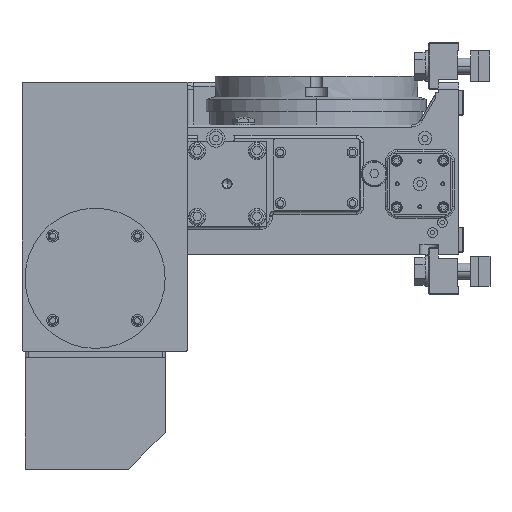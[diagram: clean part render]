
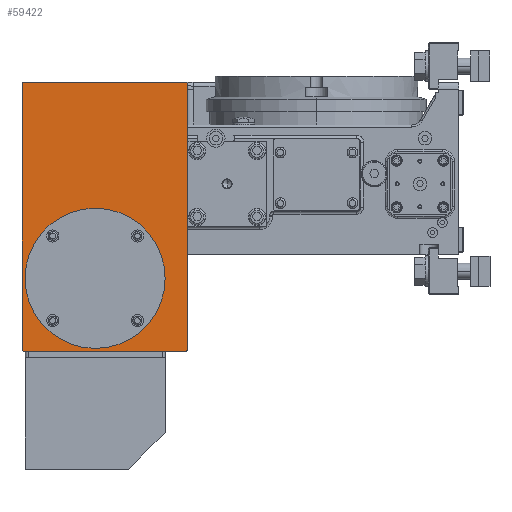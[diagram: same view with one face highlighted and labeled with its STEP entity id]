
A CAD part, left-side view. The second image highlights one B-rep face of the part: STEP entity #59422.
In plain terms, the highlighted planar face has unit normal (-1, 0, 0).
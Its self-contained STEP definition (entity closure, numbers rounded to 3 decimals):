
#2015 = ORIENTED_EDGE ( 'NONE', *, *, #53510, .F. ) ;
#2461 = EDGE_LOOP ( 'NONE', ( #118993, #2015 ) ) ;
#3494 = LINE ( 'NONE', #117168, #74721 ) ;
#4367 = CARTESIAN_POINT ( 'NONE',  ( -203., 0., -263. ) ) ;
#7502 = CARTESIAN_POINT ( 'NONE',  ( -203., 163., -2. ) ) ;
#8255 = EDGE_CURVE ( 'NONE', #91491, #105843, #31579, .T. ) ;
#9047 = CIRCLE ( 'NONE', #117580, 54. ) ;
#12661 = CARTESIAN_POINT ( 'NONE',  ( -203., 0., 0. ) ) ;
#13082 = PLANE ( 'NONE',  #13578 ) ;
#13213 = CIRCLE ( 'NONE', #87438, 2. ) ;
#13314 = EDGE_CURVE ( 'NONE', #26128, #98991, #96383, .T. ) ;
#13578 = AXIS2_PLACEMENT_3D ( 'NONE', #12661, #80820, #22832 ) ;
#14763 = CARTESIAN_POINT ( 'NONE',  ( -203., 163., 0. ) ) ;
#18401 = CARTESIAN_POINT ( 'NONE',  ( -203., 2., 0. ) ) ;
#18442 = VERTEX_POINT ( 'NONE', #80156 ) ;
#18911 = ORIENTED_EDGE ( 'NONE', *, *, #51847, .T. ) ;
#19518 = EDGE_CURVE ( 'NONE', #18442, #105843, #54885, .T. ) ;
#20219 = DIRECTION ( 'NONE',  ( -1., 0., 0. ) ) ;
#22832 = DIRECTION ( 'NONE',  ( 0., 0., 1. ) ) ;
#24672 = EDGE_CURVE ( 'NONE', #26128, #110762, #44597, .T. ) ;
#25767 = CARTESIAN_POINT ( 'NONE',  ( -203., 91., -193. ) ) ;
#26128 = VERTEX_POINT ( 'NONE', #64607 ) ;
#27188 = CIRCLE ( 'NONE', #28796, 54. ) ;
#28796 = AXIS2_PLACEMENT_3D ( 'NONE', #25767, #93511, #35494 ) ;
#31556 = CARTESIAN_POINT ( 'NONE',  ( -203., 2., -263. ) ) ;
#31579 = CIRCLE ( 'NONE', #78930, 2. ) ;
#35320 = VERTEX_POINT ( 'NONE', #43850 ) ;
#35494 = DIRECTION ( 'NONE',  ( 0., 0., 1. ) ) ;
#36976 = DIRECTION ( 'NONE',  ( -1., 0., 0. ) ) ;
#37817 = CARTESIAN_POINT ( 'NONE',  ( -203., 161., -263. ) ) ;
#40014 = ORIENTED_EDGE ( 'NONE', *, *, #13314, .F. ) ;
#41330 = DIRECTION ( 'NONE',  ( 0., 0., 1. ) ) ;
#42446 = ORIENTED_EDGE ( 'NONE', *, *, #8255, .T. ) ;
#43208 = ORIENTED_EDGE ( 'NONE', *, *, #112245, .F. ) ;
#43785 = VERTEX_POINT ( 'NONE', #91096 ) ;
#43850 = CARTESIAN_POINT ( 'NONE',  ( -203., 0., -2. ) ) ;
#43967 = DIRECTION ( 'NONE',  ( 0., 0., 1. ) ) ;
#44597 = CIRCLE ( 'NONE', #82754, 2. ) ;
#46694 = DIRECTION ( 'NONE',  ( -1., 0., 0. ) ) ;
#47080 = EDGE_CURVE ( 'NONE', #35320, #72563, #13213, .T. ) ;
#47232 = CARTESIAN_POINT ( 'NONE',  ( -203., 0., 0. ) ) ;
#47567 = DIRECTION ( 'NONE',  ( 0., 0., 1. ) ) ;
#48394 = EDGE_CURVE ( 'NONE', #35320, #110762, #3494, .T. ) ;
#51205 = EDGE_LOOP ( 'NONE', ( #40014, #104898, #115168, #108127, #43208, #42446, #122848, #18911 ) ) ;
#51847 = EDGE_CURVE ( 'NONE', #18442, #98991, #60503, .T. ) ;
#53510 = EDGE_CURVE ( 'NONE', #116936, #43785, #9047, .T. ) ;
#54885 = LINE ( 'NONE', #14763, #77603 ) ;
#59422 = ADVANCED_FACE ( 'NONE', ( #67290, #70394 ), #13082, .T. ) ;
#60503 = CIRCLE ( 'NONE', #72527, 2. ) ;
#60615 = CARTESIAN_POINT ( 'NONE',  ( -203., 91., -247. ) ) ;
#64607 = CARTESIAN_POINT ( 'NONE',  ( -203., 2., -265. ) ) ;
#67290 = FACE_BOUND ( 'NONE', #2461, .T. ) ;
#70394 = FACE_OUTER_BOUND ( 'NONE', #51205, .T. ) ;
#72527 = AXIS2_PLACEMENT_3D ( 'NONE', #37817, #105671, #47567 ) ;
#72563 = VERTEX_POINT ( 'NONE', #18401 ) ;
#74721 = VECTOR ( 'NONE', #98112, 1000. ) ;
#75254 = EDGE_CURVE ( 'NONE', #43785, #116936, #27188, .T. ) ;
#77603 = VECTOR ( 'NONE', #43967, 1000. ) ;
#77867 = VECTOR ( 'NONE', #115475, 1000. ) ;
#78930 = AXIS2_PLACEMENT_3D ( 'NONE', #94587, #20219, #94153 ) ;
#80156 = CARTESIAN_POINT ( 'NONE',  ( -203., 163., -263. ) ) ;
#80820 = DIRECTION ( 'NONE',  ( -1., 0., 0. ) ) ;
#82754 = AXIS2_PLACEMENT_3D ( 'NONE', #31556, #99438, #41330 ) ;
#87438 = AXIS2_PLACEMENT_3D ( 'NONE', #104840, #46694, #114520 ) ;
#91096 = CARTESIAN_POINT ( 'NONE',  ( -203., 91., -139. ) ) ;
#91491 = VERTEX_POINT ( 'NONE', #114299 ) ;
#93511 = DIRECTION ( 'NONE',  ( -1., 0., 0. ) ) ;
#94153 = DIRECTION ( 'NONE',  ( 0., 0., 1. ) ) ;
#94587 = CARTESIAN_POINT ( 'NONE',  ( -203., 161., -2. ) ) ;
#95044 = CARTESIAN_POINT ( 'NONE',  ( -203., 91., -193. ) ) ;
#96383 = LINE ( 'NONE', #117312, #116058 ) ;
#98112 = DIRECTION ( 'NONE',  ( 0., 0., -1. ) ) ;
#98250 = DIRECTION ( 'NONE',  ( 0., 1., 0. ) ) ;
#98991 = VERTEX_POINT ( 'NONE', #101462 ) ;
#99438 = DIRECTION ( 'NONE',  ( -1., 0., 0. ) ) ;
#100659 = LINE ( 'NONE', #47232, #77867 ) ;
#101462 = CARTESIAN_POINT ( 'NONE',  ( -203., 161., -265. ) ) ;
#104835 = DIRECTION ( 'NONE',  ( 0., 0., 1. ) ) ;
#104840 = CARTESIAN_POINT ( 'NONE',  ( -203., 2., -2. ) ) ;
#104898 = ORIENTED_EDGE ( 'NONE', *, *, #24672, .T. ) ;
#105671 = DIRECTION ( 'NONE',  ( -1., 0., 0. ) ) ;
#105843 = VERTEX_POINT ( 'NONE', #7502 ) ;
#108127 = ORIENTED_EDGE ( 'NONE', *, *, #47080, .T. ) ;
#110762 = VERTEX_POINT ( 'NONE', #4367 ) ;
#112245 = EDGE_CURVE ( 'NONE', #91491, #72563, #100659, .T. ) ;
#114299 = CARTESIAN_POINT ( 'NONE',  ( -203., 161., 0. ) ) ;
#114520 = DIRECTION ( 'NONE',  ( 0., 0., 1. ) ) ;
#115168 = ORIENTED_EDGE ( 'NONE', *, *, #48394, .F. ) ;
#115475 = DIRECTION ( 'NONE',  ( 0., -1., 0. ) ) ;
#116058 = VECTOR ( 'NONE', #98250, 1000. ) ;
#116936 = VERTEX_POINT ( 'NONE', #60615 ) ;
#117168 = CARTESIAN_POINT ( 'NONE',  ( -203., 0., 0. ) ) ;
#117312 = CARTESIAN_POINT ( 'NONE',  ( -203., 0., -265. ) ) ;
#117580 = AXIS2_PLACEMENT_3D ( 'NONE', #95044, #36976, #104835 ) ;
#118993 = ORIENTED_EDGE ( 'NONE', *, *, #75254, .F. ) ;
#122848 = ORIENTED_EDGE ( 'NONE', *, *, #19518, .F. ) ;
